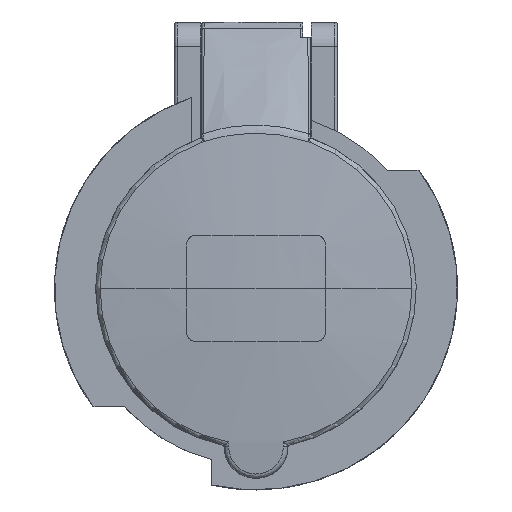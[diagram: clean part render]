
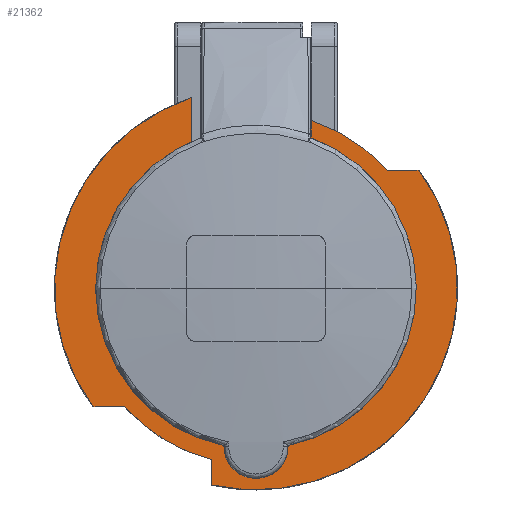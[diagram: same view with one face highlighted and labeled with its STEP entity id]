
A CAD part, top view. The second image highlights one B-rep face of the part: STEP entity #21362.
In plain terms, the highlighted planar face has unit normal (0, 0, 1).
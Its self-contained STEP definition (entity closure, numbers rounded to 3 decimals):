
#21303 = VERTEX_POINT('',#21304);
#21304 = CARTESIAN_POINT('',(-6.498,-31.844,49.5));
#21312 = VERTEX_POINT('',#21313);
#21313 = CARTESIAN_POINT('',(-13.,29.787,49.5));
#21319 = EDGE_CURVE('',#21312,#21303,#21320,.T.);
#21320 = CIRCLE('',#21321,32.5);
#21321 = AXIS2_PLACEMENT_3D('',#21322,#21323,#21324);
#21322 = CARTESIAN_POINT('',(0.,0.,49.5));
#21323 = DIRECTION('',(0.,0.,1.));
#21324 = DIRECTION('',(-0.4,0.917,0.));
#21335 = VERTEX_POINT('',#21336);
#21336 = CARTESIAN_POINT('',(11.2,30.509,49.5));
#21344 = VERTEX_POINT('',#21345);
#21345 = CARTESIAN_POINT('',(6.498,-31.844,49.5));
#21351 = EDGE_CURVE('',#21344,#21335,#21352,.T.);
#21352 = CIRCLE('',#21353,32.5);
#21353 = AXIS2_PLACEMENT_3D('',#21354,#21355,#21356);
#21354 = CARTESIAN_POINT('',(0.,0.,49.5));
#21355 = DIRECTION('',(0.,0.,1.));
#21356 = DIRECTION('',(0.2,-0.98,0.));
#21362 = ADVANCED_FACE('',(#21363),#21456,.F.);
#21363 = FACE_BOUND('',#21364,.T.);
#21364 = EDGE_LOOP('',(#21365,#21375,#21384,#21392,#21401,#21409,#21418,
    #21426,#21432,#21433,#21440,#21441,#21449));
#21365 = ORIENTED_EDGE('',*,*,#21366,.T.);
#21366 = EDGE_CURVE('',#21367,#21369,#21371,.T.);
#21367 = VERTEX_POINT('',#21368);
#21368 = CARTESIAN_POINT('',(-33.056,-24.,49.5));
#21369 = VERTEX_POINT('',#21370);
#21370 = CARTESIAN_POINT('',(-26.631,-24.,49.5));
#21371 = LINE('',#21372,#21373);
#21372 = CARTESIAN_POINT('',(-33.056,-24.,49.5));
#21373 = VECTOR('',#21374,1.);
#21374 = DIRECTION('',(1.,0.,0.));
#21375 = ORIENTED_EDGE('',*,*,#21376,.T.);
#21376 = EDGE_CURVE('',#21369,#21377,#21379,.T.);
#21377 = VERTEX_POINT('',#21378);
#21378 = CARTESIAN_POINT('',(-9.,-34.702,49.5));
#21379 = CIRCLE('',#21380,35.85);
#21380 = AXIS2_PLACEMENT_3D('',#21381,#21382,#21383);
#21381 = CARTESIAN_POINT('',(0.,0.,49.5));
#21382 = DIRECTION('',(0.,0.,1.));
#21383 = DIRECTION('',(-0.743,-0.669,0.));
#21384 = ORIENTED_EDGE('',*,*,#21385,.F.);
#21385 = EDGE_CURVE('',#21386,#21377,#21388,.T.);
#21386 = VERTEX_POINT('',#21387);
#21387 = CARTESIAN_POINT('',(-9.,-39.846,49.5));
#21388 = LINE('',#21389,#21390);
#21389 = CARTESIAN_POINT('',(-9.,-39.846,49.5));
#21390 = VECTOR('',#21391,1.);
#21391 = DIRECTION('',(0.,1.,0.));
#21392 = ORIENTED_EDGE('',*,*,#21393,.T.);
#21393 = EDGE_CURVE('',#21386,#21394,#21396,.T.);
#21394 = VERTEX_POINT('',#21395);
#21395 = CARTESIAN_POINT('',(33.056,24.,49.5));
#21396 = CIRCLE('',#21397,40.85);
#21397 = AXIS2_PLACEMENT_3D('',#21398,#21399,#21400);
#21398 = CARTESIAN_POINT('',(0.,0.,49.5));
#21399 = DIRECTION('',(0.,0.,1.));
#21400 = DIRECTION('',(-0.22,-0.975,0.));
#21401 = ORIENTED_EDGE('',*,*,#21402,.T.);
#21402 = EDGE_CURVE('',#21394,#21403,#21405,.T.);
#21403 = VERTEX_POINT('',#21404);
#21404 = CARTESIAN_POINT('',(26.631,24.,49.5));
#21405 = LINE('',#21406,#21407);
#21406 = CARTESIAN_POINT('',(33.056,24.,49.5));
#21407 = VECTOR('',#21408,1.);
#21408 = DIRECTION('',(-1.,0.,0.));
#21409 = ORIENTED_EDGE('',*,*,#21410,.T.);
#21410 = EDGE_CURVE('',#21403,#21411,#21413,.T.);
#21411 = VERTEX_POINT('',#21412);
#21412 = CARTESIAN_POINT('',(11.2,34.056,49.5));
#21413 = CIRCLE('',#21414,35.85);
#21414 = AXIS2_PLACEMENT_3D('',#21415,#21416,#21417);
#21415 = CARTESIAN_POINT('',(0.,0.,49.5));
#21416 = DIRECTION('',(0.,0.,1.));
#21417 = DIRECTION('',(0.743,0.669,-0.));
#21418 = ORIENTED_EDGE('',*,*,#21419,.T.);
#21419 = EDGE_CURVE('',#21411,#21420,#21422,.T.);
#21420 = VERTEX_POINT('',#21421);
#21421 = CARTESIAN_POINT('',(11.2,31.7,49.5));
#21422 = LINE('',#21423,#21424);
#21423 = CARTESIAN_POINT('',(11.2,34.056,49.5));
#21424 = VECTOR('',#21425,1.);
#21425 = DIRECTION('',(0.,-1.,0.));
#21426 = ORIENTED_EDGE('',*,*,#21427,.T.);
#21427 = EDGE_CURVE('',#21420,#21335,#21428,.T.);
#21428 = LINE('',#21429,#21430);
#21429 = CARTESIAN_POINT('',(11.2,31.7,49.5));
#21430 = VECTOR('',#21431,1.);
#21431 = DIRECTION('',(0.,-1.,0.));
#21432 = ORIENTED_EDGE('',*,*,#21351,.F.);
#21433 = ORIENTED_EDGE('',*,*,#21434,.F.);
#21434 = EDGE_CURVE('',#21303,#21344,#21435,.T.);
#21435 = CIRCLE('',#21436,6.5);
#21436 = AXIS2_PLACEMENT_3D('',#21437,#21438,#21439);
#21437 = CARTESIAN_POINT('',(0.,-32.,49.5));
#21438 = DIRECTION('',(0.,0.,1.));
#21439 = DIRECTION('',(-1.,0.024,0.));
#21440 = ORIENTED_EDGE('',*,*,#21319,.F.);
#21441 = ORIENTED_EDGE('',*,*,#21442,.T.);
#21442 = EDGE_CURVE('',#21312,#21443,#21445,.T.);
#21443 = VERTEX_POINT('',#21444);
#21444 = CARTESIAN_POINT('',(-13.,38.726,49.5));
#21445 = LINE('',#21446,#21447);
#21446 = CARTESIAN_POINT('',(-13.,29.787,49.5));
#21447 = VECTOR('',#21448,1.);
#21448 = DIRECTION('',(0.,1.,0.));
#21449 = ORIENTED_EDGE('',*,*,#21450,.T.);
#21450 = EDGE_CURVE('',#21443,#21367,#21451,.T.);
#21451 = CIRCLE('',#21452,40.85);
#21452 = AXIS2_PLACEMENT_3D('',#21453,#21454,#21455);
#21453 = CARTESIAN_POINT('',(0.,0.,49.5));
#21454 = DIRECTION('',(0.,0.,1.));
#21455 = DIRECTION('',(-0.318,0.948,0.));
#21456 = PLANE('',#21457);
#21457 = AXIS2_PLACEMENT_3D('',#21458,#21459,#21460);
#21458 = CARTESIAN_POINT('',(0.,0.,49.5));
#21459 = DIRECTION('',(0.,0.,-1.));
#21460 = DIRECTION('',(1.,0.,0.));
